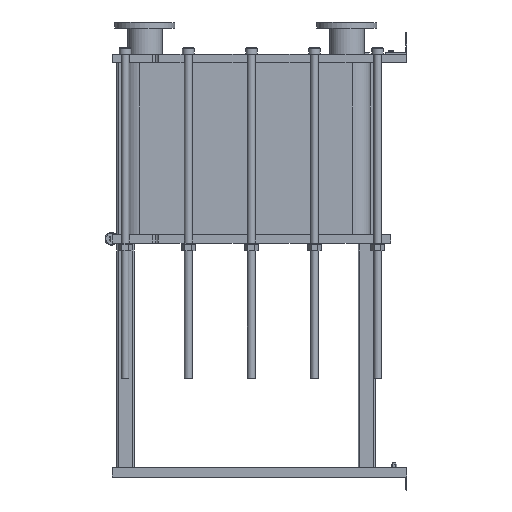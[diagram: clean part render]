
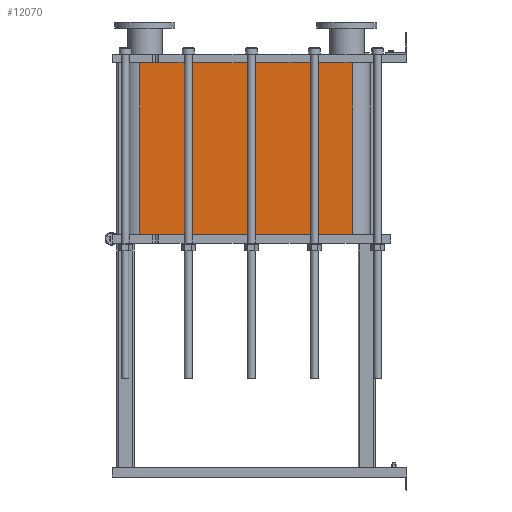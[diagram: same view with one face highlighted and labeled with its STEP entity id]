
A CAD part, left-side view. The second image highlights one B-rep face of the part: STEP entity #12070.
In plain terms, the highlighted planar face has unit normal (-1, 0, 0).
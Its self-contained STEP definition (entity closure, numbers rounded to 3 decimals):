
#1064=LINE('',#21140,#2164);
#1065=LINE('',#21144,#2165);
#1066=LINE('',#21146,#2166);
#1067=LINE('',#21147,#2167);
#2164=VECTOR('',#15790,10.);
#2165=VECTOR('',#15795,10.);
#2166=VECTOR('',#15796,10.);
#2167=VECTOR('',#15797,10.);
#3304=FACE_OUTER_BOUND('',#4091,.T.);
#4091=EDGE_LOOP('',(#9793,#9794,#9795,#9796));
#5677=VERTEX_POINT('',#21137);
#5678=VERTEX_POINT('',#21139);
#5679=VERTEX_POINT('',#21143);
#5680=VERTEX_POINT('',#21145);
#7118=EDGE_CURVE('',#5678,#5677,#1064,.T.);
#7120=EDGE_CURVE('',#5677,#5679,#1065,.T.);
#7121=EDGE_CURVE('',#5680,#5679,#1066,.T.);
#7122=EDGE_CURVE('',#5680,#5678,#1067,.T.);
#9793=ORIENTED_EDGE('',*,*,#7120,.T.);
#9794=ORIENTED_EDGE('',*,*,#7121,.F.);
#9795=ORIENTED_EDGE('',*,*,#7122,.T.);
#9796=ORIENTED_EDGE('',*,*,#7118,.T.);
#11441=PLANE('',#13191);
#12070=ADVANCED_FACE('',(#3304),#11441,.T.);
#13191=AXIS2_PLACEMENT_3D('',#21142,#15793,#15794);
#15790=DIRECTION('',(0.,0.,-1.));
#15793=DIRECTION('center_axis',(-1.,0.,0.));
#15794=DIRECTION('ref_axis',(0.,1.,0.));
#15795=DIRECTION('',(0.,-1.,0.));
#15796=DIRECTION('',(0.,0.,-1.));
#15797=DIRECTION('',(0.,1.,0.));
#21137=CARTESIAN_POINT('',(-248.152,1243.818,-800.4));
#21139=CARTESIAN_POINT('',(-248.152,1243.818,0.));
#21140=CARTESIAN_POINT('',(-248.152,1243.818,0.));
#21142=CARTESIAN_POINT('Origin',(-248.152,251.818,0.));
#21143=CARTESIAN_POINT('',(-248.152,251.818,-800.4));
#21144=CARTESIAN_POINT('',(-248.152,499.818,-800.4));
#21145=CARTESIAN_POINT('',(-248.152,251.818,0.));
#21146=CARTESIAN_POINT('',(-248.152,251.818,0.));
#21147=CARTESIAN_POINT('',(-248.152,251.818,0.));
